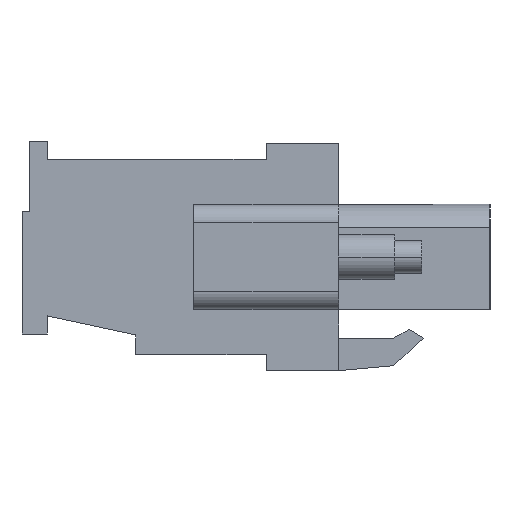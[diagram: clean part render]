
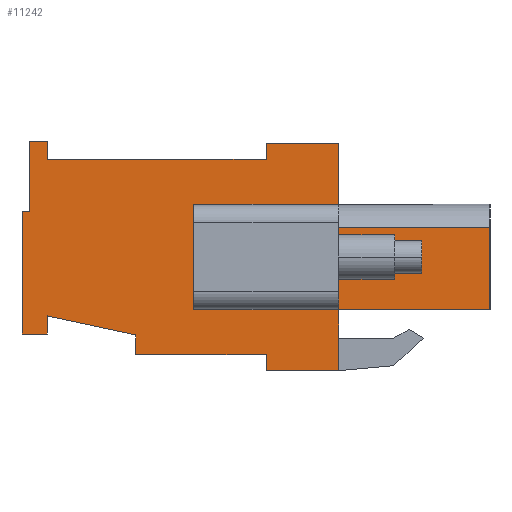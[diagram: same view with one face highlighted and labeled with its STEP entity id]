
A CAD part, left-side view. The second image highlights one B-rep face of the part: STEP entity #11242.
In plain terms, the highlighted planar face has unit normal (-1, 0, 0).
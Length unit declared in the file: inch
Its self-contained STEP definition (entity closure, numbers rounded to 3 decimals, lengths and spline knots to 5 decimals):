
#1=DIRECTION('',(0.,1.,0.));
#2=VECTOR('',#1,0.33);
#3=CARTESIAN_POINT('',(-1.2,-0.33,0.065));
#4=LINE('',#3,#2);
#5=DIRECTION('',(0.,0.,-1.));
#6=VECTOR('',#5,0.18);
#7=CARTESIAN_POINT('',(-1.2,-0.33,0.065));
#8=LINE('',#7,#6);
#9=DIRECTION('',(0.,1.,0.));
#10=VECTOR('',#9,0.33);
#11=CARTESIAN_POINT('',(-1.2,-0.33,-0.115));
#12=LINE('',#11,#10);
#13=DIRECTION('',(0.,0.,-1.));
#14=VECTOR('',#13,0.13281);
#15=CARTESIAN_POINT('',(-1.2,0.,-0.115));
#16=LINE('',#15,#14);
#17=DIRECTION('',(0.,1.,0.));
#18=VECTOR('',#17,0.158);
#19=CARTESIAN_POINT('',(-1.2,0.,-0.24781));
#20=LINE('',#19,#18);
#21=DIRECTION('',(0.,0.,1.));
#22=VECTOR('',#21,0.035);
#23=CARTESIAN_POINT('',(-1.2,0.158,-0.24781));
#24=LINE('',#23,#22);
#25=DIRECTION('',(0.,1.,0.));
#26=VECTOR('',#25,0.284);
#27=CARTESIAN_POINT('',(-1.2,0.158,-0.21281));
#28=LINE('',#27,#26);
#29=DIRECTION('',(0.,0.,1.));
#30=VECTOR('',#29,0.043);
#31=CARTESIAN_POINT('',(-1.2,0.442,-0.21281));
#32=LINE('',#31,#30);
#33=DIRECTION('',(0.,0.978,0.21));
#34=VECTOR('',#33,0.1969);
#35=CARTESIAN_POINT('',(-1.2,0.442,-0.16981));
#36=LINE('',#35,#34);
#37=DIRECTION('',(0.,0.,-1.));
#38=VECTOR('',#37,0.03937);
#39=CARTESIAN_POINT('',(-1.2,0.6345,-0.12844));
#40=LINE('',#39,#38);
#41=DIRECTION('',(0.,1.,0.));
#42=VECTOR('',#41,0.0555);
#43=CARTESIAN_POINT('',(-1.2,0.6345,-0.16781));
#44=LINE('',#43,#42);
#45=DIRECTION('',(0.,0.,1.));
#46=VECTOR('',#45,0.266);
#47=CARTESIAN_POINT('',(-1.2,0.69,-0.16781));
#48=LINE('',#47,#46);
#49=DIRECTION('',(0.,-1.,0.));
#50=VECTOR('',#49,0.01613);
#51=CARTESIAN_POINT('',(-1.2,0.69,0.09819));
#52=LINE('',#51,#50);
#53=DIRECTION('',(0.,0.,1.));
#54=VECTOR('',#53,0.154);
#55=CARTESIAN_POINT('',(-1.2,0.67387,0.09819));
#56=LINE('',#55,#54);
#57=DIRECTION('',(0.,-1.,0.));
#58=VECTOR('',#57,0.03937);
#59=CARTESIAN_POINT('',(-1.2,0.67387,0.25219));
#60=LINE('',#59,#58);
#61=DIRECTION('',(0.,0.,-1.));
#62=VECTOR('',#61,0.03937);
#63=CARTESIAN_POINT('',(-1.2,0.6345,0.25219));
#64=LINE('',#63,#62);
#65=DIRECTION('',(0.,-1.,0.));
#66=VECTOR('',#65,0.4765);
#67=CARTESIAN_POINT('',(-1.2,0.6345,0.21281));
#68=LINE('',#67,#66);
#69=DIRECTION('',(0.,0.,1.));
#70=VECTOR('',#69,0.035);
#71=CARTESIAN_POINT('',(-1.2,0.158,0.21281));
#72=LINE('',#71,#70);
#73=DIRECTION('',(0.,-1.,0.));
#74=VECTOR('',#73,0.158);
#75=CARTESIAN_POINT('',(-1.2,0.158,0.24781));
#76=LINE('',#75,#74);
#77=DIRECTION('',(0.,1.,0.));
#78=VECTOR('',#77,0.288);
#79=CARTESIAN_POINT('',(-1.2,0.028,-0.1145));
#80=LINE('',#79,#78);
#81=DIRECTION('',(0.,0.,1.));
#82=VECTOR('',#81,0.229);
#83=CARTESIAN_POINT('',(-1.2,0.028,-0.1145));
#84=LINE('',#83,#82);
#85=DIRECTION('',(0.,1.,0.));
#86=VECTOR('',#85,0.288);
#87=CARTESIAN_POINT('',(-1.2,0.028,0.1145));
#88=LINE('',#87,#86);
#89=DIRECTION('',(0.,0.,1.));
#90=VECTOR('',#89,0.229);
#91=CARTESIAN_POINT('',(-1.2,0.316,-0.1145));
#92=LINE('',#91,#90);
#357=DIRECTION('',(0.,0.,1.));
#358=VECTOR('',#357,0.18281);
#359=CARTESIAN_POINT('',(-1.2,0.,0.065));
#360=LINE('',#359,#358);
#8601=CARTESIAN_POINT('',(-1.2,-0.33,-0.115));
#8602=CARTESIAN_POINT('',(-1.2,0.,-0.115));
#8603=VERTEX_POINT('',#8601);
#8604=VERTEX_POINT('',#8602);
#8605=CARTESIAN_POINT('',(-1.2,0.,-0.24781));
#8606=VERTEX_POINT('',#8605);
#8607=CARTESIAN_POINT('',(-1.2,0.158,-0.24781));
#8608=VERTEX_POINT('',#8607);
#8609=CARTESIAN_POINT('',(-1.2,0.158,-0.21281));
#8610=VERTEX_POINT('',#8609);
#8611=CARTESIAN_POINT('',(-1.2,0.442,-0.21281));
#8612=VERTEX_POINT('',#8611);
#8613=CARTESIAN_POINT('',(-1.2,0.442,-0.16981));
#8614=VERTEX_POINT('',#8613);
#8615=CARTESIAN_POINT('',(-1.2,0.6345,-0.12844));
#8616=VERTEX_POINT('',#8615);
#8617=CARTESIAN_POINT('',(-1.2,0.6345,-0.16781));
#8618=VERTEX_POINT('',#8617);
#8619=CARTESIAN_POINT('',(-1.2,0.69,-0.16781));
#8620=VERTEX_POINT('',#8619);
#8621=CARTESIAN_POINT('',(-1.2,0.69,0.09819));
#8622=VERTEX_POINT('',#8621);
#8623=CARTESIAN_POINT('',(-1.2,0.67387,0.09819));
#8624=VERTEX_POINT('',#8623);
#8625=CARTESIAN_POINT('',(-1.2,0.67387,0.25219));
#8626=VERTEX_POINT('',#8625);
#8627=CARTESIAN_POINT('',(-1.2,0.6345,0.25219));
#8628=VERTEX_POINT('',#8627);
#8629=CARTESIAN_POINT('',(-1.2,0.6345,0.21281));
#8630=VERTEX_POINT('',#8629);
#8631=CARTESIAN_POINT('',(-1.2,0.158,0.21281));
#8632=VERTEX_POINT('',#8631);
#8633=CARTESIAN_POINT('',(-1.2,0.158,0.24781));
#8634=VERTEX_POINT('',#8633);
#8635=CARTESIAN_POINT('',(-1.2,0.,0.24781));
#8636=VERTEX_POINT('',#8635);
#8781=CARTESIAN_POINT('',(-1.2,0.028,-0.1145));
#8782=CARTESIAN_POINT('',(-1.2,0.316,-0.1145));
#8783=VERTEX_POINT('',#8781);
#8784=VERTEX_POINT('',#8782);
#8785=CARTESIAN_POINT('',(-1.2,0.028,0.1145));
#8786=CARTESIAN_POINT('',(-1.2,0.316,0.1145));
#8787=VERTEX_POINT('',#8785);
#8788=VERTEX_POINT('',#8786);
#10681=CARTESIAN_POINT('',(-1.2,-0.33,0.065));
#10682=VERTEX_POINT('',#10681);
#11183=CARTESIAN_POINT('',(-1.2,0.,0.065));
#11184=VERTEX_POINT('',#11183);
#11185=CARTESIAN_POINT('',(-1.2,0.,0.));
#11186=DIRECTION('',(1.,0.,0.));
#11187=DIRECTION('',(0.,0.,-1.));
#11188=AXIS2_PLACEMENT_3D('',#11185,#11186,#11187);
#11189=PLANE('',#11188);
#11191=ORIENTED_EDGE('',*,*,#11190,.F.);
#11193=ORIENTED_EDGE('',*,*,#11192,.F.);
#11195=ORIENTED_EDGE('',*,*,#11194,.T.);
#11197=ORIENTED_EDGE('',*,*,#11196,.T.);
#11199=ORIENTED_EDGE('',*,*,#11198,.T.);
#11201=ORIENTED_EDGE('',*,*,#11200,.T.);
#11203=ORIENTED_EDGE('',*,*,#11202,.T.);
#11205=ORIENTED_EDGE('',*,*,#11204,.T.);
#11207=ORIENTED_EDGE('',*,*,#11206,.T.);
#11209=ORIENTED_EDGE('',*,*,#11208,.T.);
#11211=ORIENTED_EDGE('',*,*,#11210,.T.);
#11213=ORIENTED_EDGE('',*,*,#11212,.T.);
#11215=ORIENTED_EDGE('',*,*,#11214,.T.);
#11217=ORIENTED_EDGE('',*,*,#11216,.T.);
#11219=ORIENTED_EDGE('',*,*,#11218,.T.);
#11221=ORIENTED_EDGE('',*,*,#11220,.T.);
#11223=ORIENTED_EDGE('',*,*,#11222,.T.);
#11225=ORIENTED_EDGE('',*,*,#11224,.T.);
#11227=ORIENTED_EDGE('',*,*,#11226,.T.);
#11229=ORIENTED_EDGE('',*,*,#11228,.T.);
#11230=EDGE_LOOP('',(#11191,#11193,#11195,#11197,#11199,#11201,#11203,#11205,
#11207,#11209,#11211,#11213,#11215,#11217,#11219,#11221,#11223,#11225,#11227,
#11229));
#11231=FACE_OUTER_BOUND('',#11230,.F.);
#11233=ORIENTED_EDGE('',*,*,#11232,.F.);
#11235=ORIENTED_EDGE('',*,*,#11234,.T.);
#11237=ORIENTED_EDGE('',*,*,#11236,.T.);
#11239=ORIENTED_EDGE('',*,*,#11238,.F.);
#11240=EDGE_LOOP('',(#11233,#11235,#11237,#11239));
#11241=FACE_BOUND('',#11240,.F.);
#11242=ADVANCED_FACE('',(#11231,#11241),#11189,.F.);
#11190=EDGE_CURVE('',#11184,#8636,#360,.T.);
#11192=EDGE_CURVE('',#10682,#11184,#4,.T.);
#11194=EDGE_CURVE('',#10682,#8603,#8,.T.);
#11196=EDGE_CURVE('',#8603,#8604,#12,.T.);
#11198=EDGE_CURVE('',#8604,#8606,#16,.T.);
#11200=EDGE_CURVE('',#8606,#8608,#20,.T.);
#11202=EDGE_CURVE('',#8608,#8610,#24,.T.);
#11204=EDGE_CURVE('',#8610,#8612,#28,.T.);
#11206=EDGE_CURVE('',#8612,#8614,#32,.T.);
#11208=EDGE_CURVE('',#8614,#8616,#36,.T.);
#11210=EDGE_CURVE('',#8616,#8618,#40,.T.);
#11212=EDGE_CURVE('',#8618,#8620,#44,.T.);
#11214=EDGE_CURVE('',#8620,#8622,#48,.T.);
#11216=EDGE_CURVE('',#8622,#8624,#52,.T.);
#11218=EDGE_CURVE('',#8624,#8626,#56,.T.);
#11220=EDGE_CURVE('',#8626,#8628,#60,.T.);
#11222=EDGE_CURVE('',#8628,#8630,#64,.T.);
#11224=EDGE_CURVE('',#8630,#8632,#68,.T.);
#11226=EDGE_CURVE('',#8632,#8634,#72,.T.);
#11228=EDGE_CURVE('',#8634,#8636,#76,.T.);
#11232=EDGE_CURVE('',#8783,#8784,#80,.T.);
#11234=EDGE_CURVE('',#8783,#8787,#84,.T.);
#11236=EDGE_CURVE('',#8787,#8788,#88,.T.);
#11238=EDGE_CURVE('',#8784,#8788,#92,.T.);
